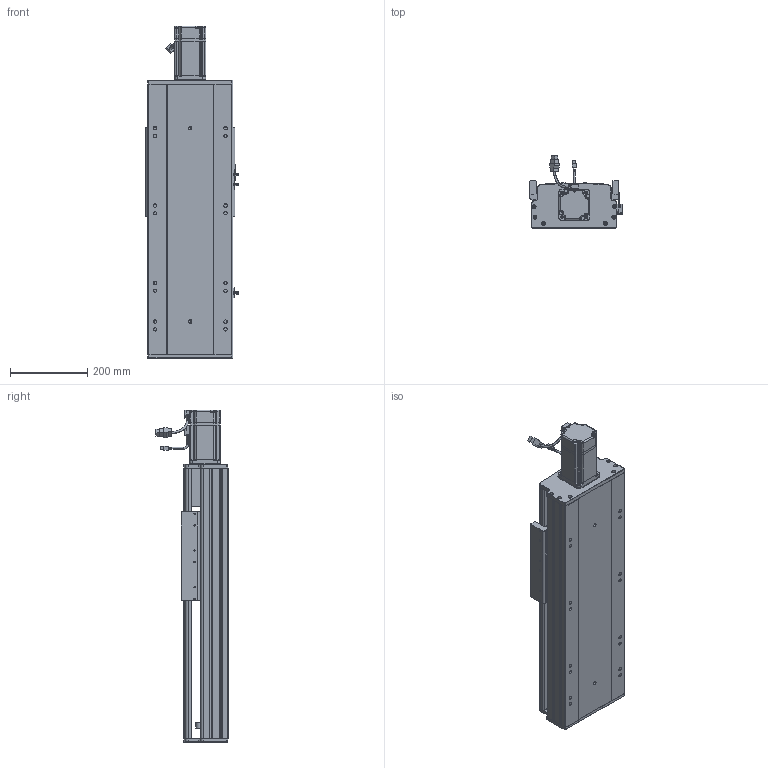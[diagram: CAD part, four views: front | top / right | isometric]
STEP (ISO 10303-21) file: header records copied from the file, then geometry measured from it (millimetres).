
FILE_DESCRIPTION (( 'STEP AP203' ), '1' );
FILE_NAME ('RY220-L2525-300-MK.SLDASM_默认.step', '2022-07-04T02:57:01', ( '' ), ( '' ), 'SwSTEP 2.0', 'SolidWorks 2016', '' );
FILE_SCHEMA (( 'CONFIG_CONTROL_DESIGN' ));
Length unit declared in the file: millimetre
Products named in the file (12): RY220菁釱MK-300; 滅袉蝶18-12; RY220半封闭25-32螺母铝滑块; RY220-俋离672覜茼んえ; RY220电机支撑座FK20（PCD90M6）; RY220-L2525-300-MK.SLDASM_默认; RY220綴裔啣; RY220-300-奻裔啣-MK; 怢湛750W_ECMA-CX0807ES; 滅袉蝶18-15; 覜茼ん672; RY220ヶ裔啣
Assembly tree (15 placements, depth 2):
  RY220-L2525-300-MK.SLDASM_默认
    RY220菁釱MK-300
    RY220电机支撑座FK20（PCD90M6）
    怢湛750W_ECMA-CX0807ES
    滅袉蝶18-12  x2
    RY220ヶ裔啣
    RY220綴裔啣
    覜茼ん672  x3
    RY220半封闭25-32螺母铝滑块
    RY220-300-奻裔啣-MK
    RY220-俋离672覜茼んえ
    滅袉蝶18-15  x2
Bounding box: 238.7 x 187.27 x 858.3 mm (x, y, z)
Volume: 7840720.6 mm3; surface area: 1955822.4 mm2
Topology: 16 solids, 16 shells, 2076 faces, 5750 edges, 3656 vertices
Faces by surface type: plane 907, cylinder 906, cone 201, bspline 36, sphere 16, torus 10
Entity records: 68178 total; most frequent: CARTESIAN_POINT 19535, ORIENTED_EDGE 10136, DIRECTION 9463, EDGE_CURVE 5068, VERTEX_POINT 3312, AXIS2_PLACEMENT_3D 3289, VECTOR 2885, LINE 2885
